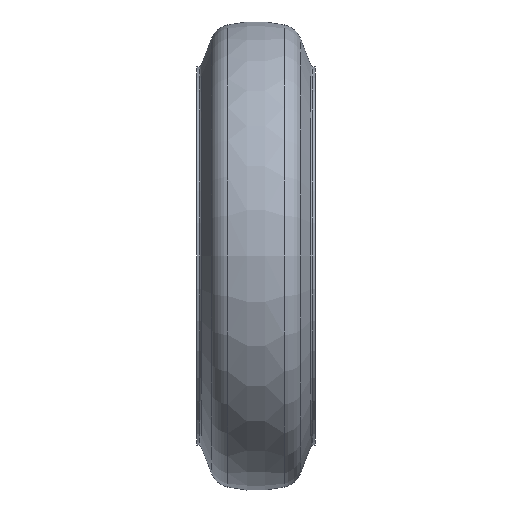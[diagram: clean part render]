
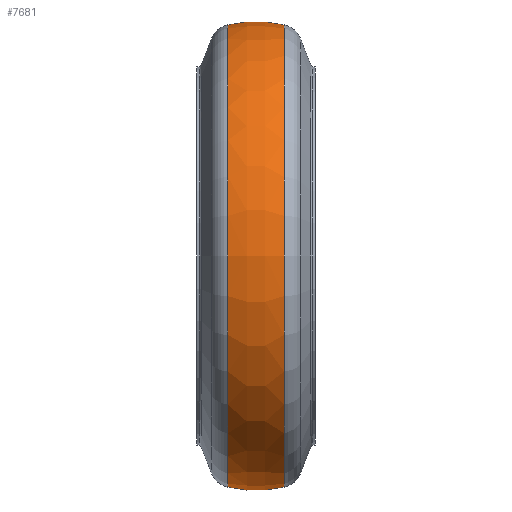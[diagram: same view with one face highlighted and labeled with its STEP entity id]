
A CAD part, front view. The second image highlights one B-rep face of the part: STEP entity #7681.
In plain terms, the highlighted toroidal (fillet/blend) face has major radius 69 mm and minor radius 81 mm.
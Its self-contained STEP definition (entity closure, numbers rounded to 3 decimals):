
#140 = ORIENTED_EDGE ( 'NONE', *, *, #16033, .F. ) ;
#807 = CARTESIAN_POINT ( 'NONE',  ( 17.934, 0., -147.99 ) ) ;
#1130 = ORIENTED_EDGE ( 'NONE', *, *, #21396, .T. ) ;
#1139 = AXIS2_PLACEMENT_3D ( 'NONE', #23491, #13249, #1456 ) ;
#1456 = DIRECTION ( 'NONE',  ( 0., 0., 1. ) ) ;
#2932 = TOROIDAL_SURFACE ( 'NONE', #24305, 69., 81. ) ;
#3888 = EDGE_LOOP ( 'NONE', ( #140, #21145, #1130, #25033 ) ) ;
#4028 = DIRECTION ( 'NONE',  ( 0., 0., 1. ) ) ;
#4172 = CIRCLE ( 'NONE', #20524, 147.99 ) ;
#4574 = VERTEX_POINT ( 'NONE', #807 ) ;
#7681 = ADVANCED_FACE ( 'NONE', ( #13994 ), #2932, .T. ) ;
#7947 = CARTESIAN_POINT ( 'NONE',  ( 0., 0., -69. ) ) ;
#8853 = DIRECTION ( 'NONE',  ( -1., 0., 0. ) ) ;
#12120 = DIRECTION ( 'NONE',  ( 0., -1., 0. ) ) ;
#12285 = CARTESIAN_POINT ( 'NONE',  ( -17.934, 0., 147.99 ) ) ;
#12478 = VERTEX_POINT ( 'NONE', #12285 ) ;
#13249 = DIRECTION ( 'NONE',  ( -1., 0., 0. ) ) ;
#13273 = VERTEX_POINT ( 'NONE', #24321 ) ;
#13795 = CIRCLE ( 'NONE', #22182, 81. ) ;
#13994 = FACE_OUTER_BOUND ( 'NONE', #3888, .T. ) ;
#15363 = CIRCLE ( 'NONE', #1139, 147.99 ) ;
#15931 = DIRECTION ( 'NONE',  ( 0., 0., 1. ) ) ;
#16033 = EDGE_CURVE ( 'NONE', #4574, #13273, #13795, .T. ) ;
#16335 = EDGE_CURVE ( 'NONE', #13273, #12478, #4172, .T. ) ;
#17802 = CARTESIAN_POINT ( 'NONE',  ( 0., 0., 0. ) ) ;
#18157 = DIRECTION ( 'NONE',  ( 0., 0., -1. ) ) ;
#19252 = AXIS2_PLACEMENT_3D ( 'NONE', #20514, #12120, #18157 ) ;
#19614 = DIRECTION ( 'NONE',  ( 0., 1., 0. ) ) ;
#20514 = CARTESIAN_POINT ( 'NONE',  ( 0., 0., 69. ) ) ;
#20524 = AXIS2_PLACEMENT_3D ( 'NONE', #22888, #8853, #20780 ) ;
#20780 = DIRECTION ( 'NONE',  ( 0., 0., 1. ) ) ;
#21145 = ORIENTED_EDGE ( 'NONE', *, *, #24664, .T. ) ;
#21396 = EDGE_CURVE ( 'NONE', #24464, #12478, #22625, .T. ) ;
#22001 = DIRECTION ( 'NONE',  ( -1., 0., 0. ) ) ;
#22182 = AXIS2_PLACEMENT_3D ( 'NONE', #7947, #19614, #15931 ) ;
#22625 = CIRCLE ( 'NONE', #19252, 81. ) ;
#22888 = CARTESIAN_POINT ( 'NONE',  ( -17.934, 0., 0. ) ) ;
#23491 = CARTESIAN_POINT ( 'NONE',  ( 17.934, 0., 0. ) ) ;
#24305 = AXIS2_PLACEMENT_3D ( 'NONE', #17802, #22001, #4028 ) ;
#24321 = CARTESIAN_POINT ( 'NONE',  ( -17.934, 0., -147.99 ) ) ;
#24464 = VERTEX_POINT ( 'NONE', #25536 ) ;
#24664 = EDGE_CURVE ( 'NONE', #4574, #24464, #15363, .T. ) ;
#25033 = ORIENTED_EDGE ( 'NONE', *, *, #16335, .F. ) ;
#25536 = CARTESIAN_POINT ( 'NONE',  ( 17.934, 0., 147.99 ) ) ;
